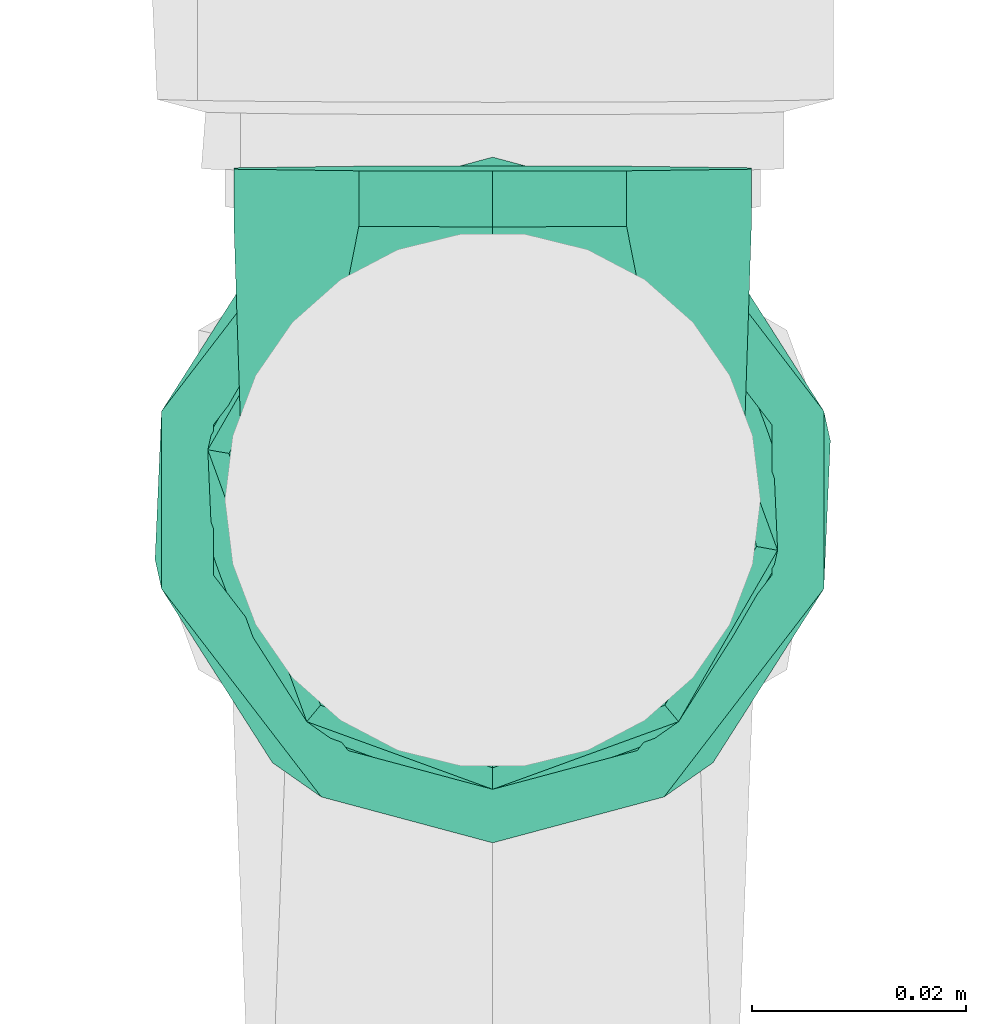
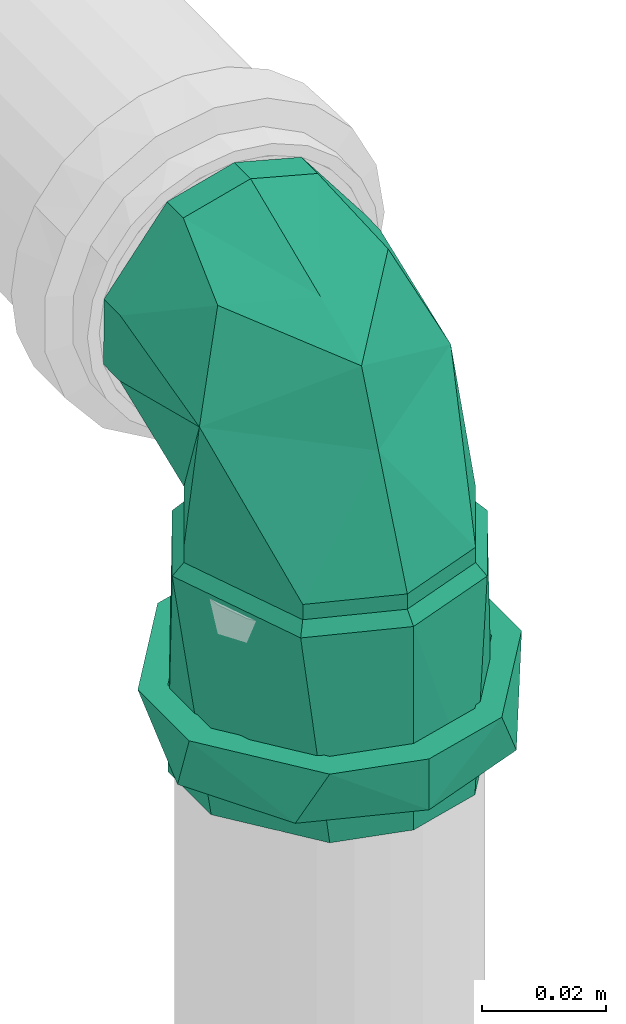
# One storey, part 40 of 589: 1 flow fitting.
"""IFC2X3 building model written with IfcOpenShell, lengths in millimetres."""

from ifc_helpers import new_model, entity, si_unit, converted_unit, derived_unit, direction, frame, origin, place, context, subcontext, project, spatial, faceted_brep, source, transform, mapped, material, type_object, type_shapes, element, save


model = new_model("IFC2X3")

# Units and contexts
model_context = context("Model", 3, precision=0.01, world=origin(), true_north=direction((6.123031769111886e-17, 1.0)))
body_context = subcontext(model_context, "Body", "Model", "MODEL_VIEW")
ifc_project = project(units=[si_unit("LENGTHUNIT", "METRE", prefix="MILLI"), si_unit("AREAUNIT", "SQUARE_METRE"), si_unit("VOLUMEUNIT", "CUBIC_METRE"), converted_unit("PLANEANGLEUNIT", "DEGREE", entity("IfcRatioMeasure", 0.017453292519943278), si_unit("PLANEANGLEUNIT", "RADIAN"), dimensions=[0, 0, 0, 0, 0, 0, 0]), si_unit("MASSUNIT", "GRAM", prefix="KILO"), derived_unit("MASSDENSITYUNIT", [(si_unit("MASSUNIT", "GRAM", prefix="KILO"), 1), (si_unit("LENGTHUNIT", "METRE"), -3)]), derived_unit("IONCONCENTRATIONUNIT", [(si_unit("MASSUNIT", "GRAM", prefix="KILO"), 1), (si_unit("LENGTHUNIT", "METRE"), -3)]), derived_unit("MOMENTOFINERTIAUNIT", [(si_unit("LENGTHUNIT", "METRE"), 4)]), si_unit("TIMEUNIT", "SECOND"), si_unit("FREQUENCYUNIT", "HERTZ"), si_unit("THERMODYNAMICTEMPERATUREUNIT", "DEGREE_CELSIUS"), derived_unit("THERMALTRANSMITTANCEUNIT", [(si_unit("MASSUNIT", "GRAM", prefix="KILO"), 1), (si_unit("THERMODYNAMICTEMPERATUREUNIT", "KELVIN"), -1), (si_unit("TIMEUNIT", "SECOND"), -3)]), derived_unit("THERMALCONDUCTANCEUNIT", [(si_unit("MASSUNIT", "GRAM", prefix="KILO"), 1), (si_unit("THERMODYNAMICTEMPERATUREUNIT", "KELVIN"), -1), (si_unit("TIMEUNIT", "SECOND"), -3), (si_unit("LENGTHUNIT", "METRE"), 1)]), derived_unit("VOLUMETRICFLOWRATEUNIT", [(si_unit("LENGTHUNIT", "METRE"), 3), (si_unit("TIMEUNIT", "SECOND"), -1)]), derived_unit("MASSFLOWRATEUNIT", [(si_unit("MASSUNIT", "GRAM", prefix="KILO"), 1), (si_unit("TIMEUNIT", "SECOND"), -1)]), derived_unit("ROTATIONALFREQUENCYUNIT", [(si_unit("TIMEUNIT", "SECOND"), -1)]), si_unit("ELECTRICCURRENTUNIT", "AMPERE"), si_unit("ELECTRICVOLTAGEUNIT", "VOLT"), si_unit("POWERUNIT", "WATT"), si_unit("FORCEUNIT", "NEWTON", prefix="KILO"), si_unit("ILLUMINANCEUNIT", "LUX"), si_unit("LUMINOUSFLUXUNIT", "LUMEN"), si_unit("LUMINOUSINTENSITYUNIT", "CANDELA"), derived_unit("USERDEFINED", [(si_unit("MASSUNIT", "GRAM", prefix="KILO"), -1), (si_unit("LENGTHUNIT", "METRE"), -2), (si_unit("TIMEUNIT", "SECOND"), 3), (si_unit("LUMINOUSFLUXUNIT", "LUMEN"), 1)]), derived_unit("USERDEFINED", [(si_unit("MASSUNIT", "GRAM", prefix="KILO"), 1), (si_unit("TIMEUNIT", "SECOND"), -3), (si_unit("LENGTHUNIT", "METRE"), 3), (si_unit("ELECTRICCURRENTUNIT", "AMPERE"), -2)]), derived_unit("SOUNDPOWERUNIT", [(si_unit("MASSUNIT", "GRAM", prefix="KILO"), 1), (si_unit("TIMEUNIT", "SECOND"), -3), (si_unit("LENGTHUNIT", "METRE"), 2)]), derived_unit("SOUNDPRESSUREUNIT", [(si_unit("MASSUNIT", "GRAM", prefix="KILO"), 1), (si_unit("LENGTHUNIT", "METRE"), -1), (si_unit("TIMEUNIT", "SECOND"), -2)]), derived_unit("LINEARVELOCITYUNIT", [(si_unit("LENGTHUNIT", "METRE"), 1), (si_unit("TIMEUNIT", "SECOND"), -1)]), si_unit("PRESSUREUNIT", "PASCAL"), derived_unit("USERDEFINED", [(si_unit("MASSUNIT", "GRAM", prefix="KILO"), 1), (si_unit("LENGTHUNIT", "METRE"), -2), (si_unit("TIMEUNIT", "SECOND"), -2)]), derived_unit("LINEARFORCEUNIT", [(si_unit("MASSUNIT", "GRAM", prefix="KILO"), 1), (si_unit("TIMEUNIT", "SECOND"), -2)]), derived_unit("PLANARFORCEUNIT", [(si_unit("MASSUNIT", "GRAM", prefix="KILO"), 1), (si_unit("LENGTHUNIT", "METRE"), -1), (si_unit("TIMEUNIT", "SECOND"), -2)]), derived_unit("SPECIFICHEATCAPACITYUNIT", [(si_unit("THERMODYNAMICTEMPERATUREUNIT", "KELVIN"), -1), (si_unit("LENGTHUNIT", "METRE"), 2), (si_unit("TIMEUNIT", "SECOND"), -2)]), derived_unit("HEATINGVALUEUNIT", [(si_unit("LENGTHUNIT", "METRE"), 2), (si_unit("TIMEUNIT", "SECOND"), -2)]), derived_unit("VAPORPERMEABILITYUNIT", [(si_unit("LENGTHUNIT", "METRE"), -1), (si_unit("TIMEUNIT", "SECOND"), 1)]), derived_unit("DYNAMICVISCOSITYUNIT", [(si_unit("MASSUNIT", "GRAM", prefix="KILO"), 1), (si_unit("TIMEUNIT", "SECOND"), -1), (si_unit("LENGTHUNIT", "METRE"), -1)]), derived_unit("THERMALEXPANSIONCOEFFICIENTUNIT", [(si_unit("THERMODYNAMICTEMPERATUREUNIT", "KELVIN"), -1)]), derived_unit("MODULUSOFELASTICITYUNIT", [(si_unit("MASSUNIT", "GRAM", prefix="KILO"), 1), (si_unit("LENGTHUNIT", "METRE"), -1), (si_unit("TIMEUNIT", "SECOND"), -2)]), derived_unit("ISOTHERMALMOISTURECAPACITYUNIT", [(si_unit("LENGTHUNIT", "METRE"), 3), (si_unit("MASSUNIT", "GRAM", prefix="KILO"), -1)]), derived_unit("MOISTUREDIFFUSIVITYUNIT", [(si_unit("TIMEUNIT", "SECOND"), -1), (si_unit("LENGTHUNIT", "METRE"), 2)])], contexts=[model_context])

# Site, building, storey
site_placement = place(None, origin())
site = spatial("IfcSite", under=ifc_project, at=site_placement, Name="Default", CompositionType="ELEMENT")
building_placement = place(site_placement, origin())
building = spatial("IfcBuilding", under=site, at=building_placement, CompositionType="ELEMENT")
storey_placement = place(building_placement, frame((0.0, 0.0, 100.0)))
storey = spatial("IfcBuildingStorey", under=building, at=storey_placement, Name="TÉRREO", CompositionType="ELEMENT", Elevation=100.0)

# Flow fitting
ifc_material = material(Name="PVC Série Normal")
pipe_fitting_type = type_object("IfcPipeFittingType", Name="PVC Esgoto_Joelho 45_90_Rodrigo MEP:a. Série Normal", PredefinedType="NOTDEFINED", material=ifc_material)
shared_shape = source(origin(), body_context, "Body", "Brep", [
    faceted_brep([(25.256150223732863, -25.490025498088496, 0.0), (21.906952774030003, -25.52351747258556, -12.500000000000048), (6.727552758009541, -25.675311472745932, -24.14814565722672), (-6.21275249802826, -25.804714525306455, -24.1481456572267), (-21.392152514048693, -25.956508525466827, -12.499999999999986), (-24.741349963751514, -25.990000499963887, 0.0), (-21.392152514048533, -25.95650852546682, 12.500000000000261), (-6.212752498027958, -25.804714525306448, 24.14814565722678), (6.7275527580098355, -25.675311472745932, 24.148145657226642), (21.906952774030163, -25.52351747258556, 12.499999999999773), (-6.160755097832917, -31.00445454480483, 24.14814565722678), (-21.340155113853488, -31.1562485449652, 12.500000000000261), (-24.689352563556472, -31.18974051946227, 0.0), (-21.34015511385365, -31.156248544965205, -12.499999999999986), (-6.160755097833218, -31.004454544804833, -24.1481456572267), (6.779550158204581, -30.87505149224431, -24.14814565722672), (21.958950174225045, -30.72325749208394, -12.500000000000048), (25.308147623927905, -30.689765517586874, 0.0), (21.958950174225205, -30.72325749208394, 12.499999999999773), (6.779550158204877, -30.87505149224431, 24.148145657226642)], [[[0, 1, 2, 3, 4, 5, 6, 7, 8, 9]], [[10, 11, 12, 13, 14, 15, 16, 17, 18, 19]], [[18, 17, 0, 9]], [[19, 18, 9, 8]], [[8, 7, 10, 19]], [[11, 10, 7, 6]], [[12, 11, 6, 5]], [[13, 12, 5, 4]], [[14, 13, 4, 3]], [[3, 2, 15, 14]], [[16, 15, 2, 1]], [[17, 16, 1, 0]]]),
    faceted_brep([(-70.94129996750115, -6.4704761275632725, -24.148145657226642), (-70.94129996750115, 6.47047612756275, -24.14814565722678), (-70.94129996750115, 6.988114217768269, -26.07999730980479), (-70.94129996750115, -6.988114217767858, -26.0799973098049), (-70.94129996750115, -21.6506350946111, -12.499999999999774), (-70.94129996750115, 23.382685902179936, -13.499999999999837), (-70.94129996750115, 21.650635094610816, -12.500000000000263), (-70.94129996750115, 25.0, 0.0), (-70.94129996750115, 27.0, 0.0), (-70.94129996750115, 21.650635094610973, 12.499999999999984), (-70.94129996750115, 23.382685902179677, 13.500000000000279), (-70.94129996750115, 6.470476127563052, 24.1481456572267), (-70.94129996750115, 6.98811421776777, 26.079997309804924), (-70.94129996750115, -6.470476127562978, 24.14814565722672), (-70.94129996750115, -6.988114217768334, 26.07999730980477), (-70.94129996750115, -21.650635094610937, 12.500000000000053), (-70.94129996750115, -23.38268590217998, 13.499999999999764), (-70.94129996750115, -27.0, 0.0), (-70.94129996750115, -25.0, 0.0), (-70.94129996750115, -23.382685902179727, -13.500000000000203), (-30.94129996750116, -25.0, 0.0), (-30.94129996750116, -21.650635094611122, -12.499999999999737), (-30.94129996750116, -6.4704761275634, -24.148145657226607), (-30.94129996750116, 6.470476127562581, -24.148145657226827), (-30.94129996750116, 21.650635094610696, -12.500000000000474), (-30.94129996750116, 25.0, 0.0), (-30.94129996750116, 21.65063509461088, 12.500000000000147), (-30.94129996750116, 6.470476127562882, 24.14814565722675), (-30.94129996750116, -6.470476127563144, 24.148145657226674), (-30.94129996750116, -21.650635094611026, 12.499999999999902), (-30.94129996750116, -27.0, 0.0), (-30.941299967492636, -20.682232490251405, 17.356418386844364), (-30.941299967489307, -7.995013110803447, 21.972787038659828), (-30.941299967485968, 4.692206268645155, 26.589155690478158), (-30.94129996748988, 20.686585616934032, 17.35122979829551), (-30.94129996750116, 27.0, 0.0), (-30.94129996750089, 20.686585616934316, -17.35122979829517), (-30.941299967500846, 8.000524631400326, -21.970780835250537), (-30.941299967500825, -4.6855363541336, -26.59033187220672), (-30.94129996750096, -20.682232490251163, -17.356418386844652), (-28.741299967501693, -4.344635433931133, -24.619588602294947), (-28.741299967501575, -19.15424594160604, -16.06595351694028), (-28.741299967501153, -25.0, 0.0), (-28.741299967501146, 25.0, 0.0), (-28.74129996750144, 19.15021526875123, -16.07075776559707), (-28.74129996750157, 7.402789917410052, -20.345173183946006), (-28.741299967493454, 19.150215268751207, 16.070757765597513), (-28.741299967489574, -7.407893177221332, 20.34331558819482), (-28.741299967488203, 4.338459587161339, 24.620677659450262), (-28.741299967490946, -19.154245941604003, 16.065953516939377), (-25.741299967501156, -25.0, 0.0), (-25.741299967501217, -19.151286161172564, 16.069481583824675), (-25.7412999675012, -7.405117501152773, 20.34485121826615), (-25.741299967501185, 4.3410511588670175, 24.620220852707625), (-25.741299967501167, 19.15106105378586, 16.069749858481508), (-25.741299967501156, 25.0, 0.0), (-25.741299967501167, 19.15106105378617, -16.069749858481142), (-25.741299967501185, 7.4048325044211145, -20.344954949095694), (-25.741299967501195, -4.341396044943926, -24.620160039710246), (-25.741299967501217, -19.15128616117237, -16.069481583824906), (21.90695277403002, -25.523517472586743, -12.500000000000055), (25.256150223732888, -25.490025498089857, 0.0), (21.906952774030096, -25.52351747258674, 12.499999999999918), (6.7275527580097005, -25.67531147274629, 24.148145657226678), (-6.2127524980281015, -25.80471452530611, 24.14814565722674), (-21.3921525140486, -25.956508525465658, 12.500000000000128), (-24.74134996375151, -25.990000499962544, 0.0), (-21.39215251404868, -25.95650852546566, -12.499999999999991), (-6.212752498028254, -25.80471452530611, -24.1481456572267), (6.727552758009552, -25.67531147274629, -24.14814565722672), (-0.875171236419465, -1.4332887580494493, 23.341145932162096), (-3.2027279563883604, 15.730161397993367, 0.0), (16.135012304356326, -8.632944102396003, 15.848254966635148), (10.140389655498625, 10.242300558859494, 0.0), (-25.03773742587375, -25.289366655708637, 0.0), (15.761400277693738, -3.0452732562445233, 0.0), (16.13501175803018, -8.632944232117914, -15.848255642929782), (-0.8358007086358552, -1.5246709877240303, -23.354961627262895)], [[[0, 1, 2]], [[2, 3, 0]], [[4, 0, 3]], [[5, 2, 1]], [[1, 6, 5]], [[6, 7, 5]], [[8, 5, 7]], [[8, 7, 9]], [[10, 8, 9]], [[9, 11, 10]], [[11, 12, 10]], [[13, 12, 11]], [[12, 13, 14]], [[13, 15, 14]], [[16, 14, 15]], [[16, 15, 17]], [[17, 15, 18]], [[18, 4, 19]], [[17, 18, 19]], [[3, 19, 4]], [[4, 18, 20, 21]], [[0, 4, 21, 22]], [[22, 23, 1, 0]], [[6, 1, 23, 24]], [[7, 6, 24, 25]], [[9, 7, 25, 26]], [[11, 9, 26, 27]], [[27, 28, 13, 11]], [[15, 13, 28, 29]], [[18, 15, 29, 20]], [[30, 16, 17]], [[30, 31, 16]], [[14, 16, 31]], [[14, 31, 32, 33]], [[10, 12, 34]], [[8, 10, 35]], [[33, 34, 12]], [[35, 10, 34]], [[14, 33, 12]], [[35, 5, 8]], [[35, 36, 5]], [[2, 5, 36]], [[2, 36, 37, 38]], [[19, 3, 39]], [[17, 19, 30]], [[38, 39, 3]], [[30, 19, 39]], [[2, 38, 3]], [[28, 27, 26, 25, 24, 23, 22, 21, 20, 29]], [[39, 40, 41]], [[30, 41, 42]], [[39, 41, 30]], [[39, 38, 40]], [[36, 43, 44]], [[37, 36, 44]], [[40, 38, 45]], [[43, 36, 35]], [[37, 45, 38]], [[37, 44, 45]], [[34, 46, 43]], [[43, 35, 34]], [[46, 34, 33]], [[47, 32, 31]], [[33, 48, 46]], [[30, 42, 49]], [[49, 47, 31]], [[30, 49, 31]], [[33, 32, 48]], [[47, 48, 32]], [[50, 49, 42]], [[50, 51, 49]], [[48, 52, 53]], [[47, 51, 52]], [[47, 52, 48]], [[47, 49, 51]], [[54, 43, 46]], [[53, 54, 46]], [[55, 43, 54]], [[48, 53, 46]], [[56, 44, 43]], [[55, 56, 43]], [[56, 57, 44]], [[57, 45, 44]], [[57, 58, 45]], [[40, 45, 58]], [[59, 41, 40]], [[59, 50, 41]], [[42, 41, 50]], [[58, 59, 40]], [[60, 61, 62, 63, 64, 65, 66, 67, 68, 69]], [[70, 53, 52, 51]], [[70, 71, 54]], [[71, 55, 54]], [[70, 72, 73]], [[74, 65, 50]], [[50, 65, 51]], [[53, 70, 54]], [[71, 70, 73]], [[62, 61, 75]], [[72, 70, 63]], [[62, 75, 72]], [[66, 65, 74]], [[63, 62, 72]], [[64, 51, 65]], [[51, 64, 70]], [[75, 73, 72]], [[70, 64, 63]], [[75, 76, 73]], [[56, 55, 71]], [[68, 59, 77]], [[58, 77, 59]], [[56, 71, 77]], [[77, 58, 57, 56]], [[76, 69, 77]], [[67, 50, 59]], [[67, 66, 74]], [[73, 77, 71]], [[59, 68, 67]], [[76, 75, 60]], [[75, 61, 60]], [[76, 77, 73]], [[60, 69, 76]], [[77, 69, 68]], [[74, 50, 67]]]),
    faceted_brep([(-53.94129996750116, 8.282209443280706, -30.909626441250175), (-53.94129996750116, 6.988114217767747, -26.079997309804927), (-53.94129996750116, -6.9881142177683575, -26.07999730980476), (-53.94129996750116, 27.712812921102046, -16.0), (-53.94129996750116, -8.28220944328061, -30.9096264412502), (-53.94129996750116, 23.38268590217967, -13.500000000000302), (-53.94129996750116, 27.0, 0.0), (-53.94129996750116, 32.0, 0.0), (-53.94129996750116, 23.382685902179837, 13.500000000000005), (-53.94129996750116, 27.712812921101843, 16.0), (-53.94129996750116, 6.988114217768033, 26.07999730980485), (-53.94129996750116, 8.28220944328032, 30.909626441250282), (-53.94129996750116, -6.988114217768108, 26.07999730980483), (-53.94129996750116, -8.282209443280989, 30.909626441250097), (-53.94129996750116, -23.382685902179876, 13.499999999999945), (-53.94129996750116, -27.712812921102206, 16.0), (-53.94129996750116, -32.0, 0.0), (-53.94129996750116, -27.0, 0.0), (-53.94129996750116, -27.712812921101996, -16.0), (-53.94129996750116, -23.38268590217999, -13.499999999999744), (-63.94129996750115, -23.38268590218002, -13.499999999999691), (-63.94129996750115, -25.19134295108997, -6.750000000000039), (-65.24129996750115, -27.0, 0.0), (-63.94129996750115, -27.0, 0.0), (-63.94129996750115, -6.988114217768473, -26.07999730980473), (-63.94129996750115, -11.086757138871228, -22.934997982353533), (-63.94129996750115, -15.185400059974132, -19.789998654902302), (-63.94129996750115, -19.284042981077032, -16.644999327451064), (-63.94129996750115, 6.988114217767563, -26.079997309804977), (-63.94129996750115, 0.0, -26.079997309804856), (-63.94129996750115, 23.382685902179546, -13.50000000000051), (-63.94129996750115, 19.284042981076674, -16.644999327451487), (-63.94129996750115, 15.185400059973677, -19.789998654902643), (-63.94129996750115, 11.086757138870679, -22.9349979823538), (-63.94129996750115, 27.0, 0.0), (-65.24129996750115, 27.0, 0.0), (-63.94129996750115, 25.191342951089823, -6.749999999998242), (-63.94129996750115, 23.382685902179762, 13.500000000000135), (-63.94129996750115, 25.191342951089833, 6.7500000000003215), (-63.94129996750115, 6.988114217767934, 26.079997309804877), (-63.94129996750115, 11.086757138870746, 22.934997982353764), (-63.94129996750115, 15.185400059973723, 19.7899986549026), (-63.94129996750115, 19.284042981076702, 16.64499932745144), (-63.94129996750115, -6.988114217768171, 26.079997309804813), (-63.94129996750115, 0.0, 26.079997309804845), (-63.94129996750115, -23.382685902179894, 13.499999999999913), (-63.94129996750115, -19.284042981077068, 16.644999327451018), (-63.94129996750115, -15.185400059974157, 19.789998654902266), (-63.94129996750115, -11.086757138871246, 22.93499798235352), (-63.94129996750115, -25.19134295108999, 6.749999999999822), (-63.94129996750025, -24.512275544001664, 20.570569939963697), (-63.94129996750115, -32.0, 0.0), (-63.94129996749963, -5.553228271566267, 31.51446740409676), (-63.94129996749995, 24.51743480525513, 20.56442050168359), (-63.94129996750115, 32.0, 0.0), (-63.9412999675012, 24.51743480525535, -20.564420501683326), (-63.94129996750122, 5.561133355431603, -31.513073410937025), (-63.94129996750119, -24.512275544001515, -20.570569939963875), (-65.24129996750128, 20.686585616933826, -17.351229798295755), (-65.24129996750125, -20.6822324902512, -17.356418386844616), (-65.24129996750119, -23.841116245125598, -8.678209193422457), (-65.24129996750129, 14.343555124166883, -19.661005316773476), (-65.24129996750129, 8.00052463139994, -21.970780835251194), (-65.2412999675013, 1.6574941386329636, -24.280556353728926), (-65.24129996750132, -4.685536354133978, -26.590331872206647), (-65.24129996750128, -12.683884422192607, -21.973375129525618), (-65.2412999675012, 23.84329280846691, -8.675614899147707), (-65.24129996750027, -20.68223249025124, 17.35641838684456), (-65.24129996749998, 20.68658561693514, 17.351229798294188), (-65.24129996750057, 23.843292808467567, 8.67561489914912), (-65.2412999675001, -14.338622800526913, 19.664602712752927), (-65.24129996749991, -7.995013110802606, 21.97278703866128), (-65.24129996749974, -1.6514034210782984, 24.28097136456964), (-65.24129996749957, 4.692206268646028, 26.58915569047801), (-65.24129996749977, 12.689395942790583, 21.9701927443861), (-65.24129996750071, -23.84111624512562, 8.678209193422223)], [[[0, 1, 2]], [[1, 0, 3]], [[2, 4, 0]], [[3, 5, 1]], [[3, 6, 5]], [[6, 3, 7]], [[8, 6, 7]], [[8, 7, 9]], [[9, 10, 8]], [[9, 11, 10]], [[10, 11, 12]], [[13, 12, 11]], [[13, 14, 12]], [[14, 13, 15]], [[16, 14, 15]], [[17, 14, 16]], [[18, 17, 16]], [[18, 19, 17]], [[19, 18, 4]], [[4, 2, 19]], [[20, 21, 22, 23, 17, 19]], [[24, 25, 26, 27, 20, 19, 2]], [[2, 1, 28, 29, 24]], [[30, 31, 32, 33, 28, 1, 5]], [[34, 35, 36, 30, 5, 6]], [[37, 38, 35, 34, 6, 8]], [[39, 40, 41, 42, 37, 8, 10]], [[10, 12, 43, 44, 39]], [[45, 46, 47, 48, 43, 12, 14]], [[23, 22, 49, 45, 14, 17]], [[15, 50, 51]], [[16, 15, 51]], [[13, 50, 15]], [[13, 52, 50]], [[53, 52, 11]], [[54, 53, 9]], [[11, 9, 53]], [[7, 54, 9]], [[13, 11, 52]], [[3, 55, 54]], [[7, 3, 54]], [[0, 55, 3]], [[0, 56, 55]], [[57, 56, 4]], [[51, 57, 18]], [[4, 18, 57]], [[16, 51, 18]], [[0, 4, 56]], [[58, 32, 31, 30]], [[59, 60, 20]], [[33, 61, 62]], [[32, 61, 33]], [[29, 63, 64]], [[24, 64, 65]], [[26, 59, 20, 27]], [[28, 63, 29]], [[64, 24, 29]], [[62, 28, 33]], [[24, 65, 26, 25]], [[22, 21, 60]], [[35, 66, 36]], [[32, 58, 61]], [[62, 63, 28]], [[58, 30, 66]], [[59, 26, 65]], [[66, 30, 36]], [[21, 20, 60]], [[67, 47, 46, 45]], [[68, 69, 37]], [[48, 70, 71]], [[47, 70, 48]], [[44, 72, 73]], [[39, 73, 74]], [[41, 68, 37, 42]], [[43, 72, 44]], [[73, 39, 44]], [[71, 43, 48]], [[39, 74, 41, 40]], [[35, 38, 69]], [[22, 75, 49]], [[47, 67, 70]], [[71, 72, 43]], [[67, 45, 75]], [[68, 41, 74]], [[75, 45, 49]], [[38, 37, 69]], [[54, 55, 58, 66, 35]], [[58, 55, 56]], [[56, 64, 63, 62, 61, 58]], [[57, 59, 65, 64]], [[51, 22, 60, 59, 57]], [[56, 57, 64]], [[51, 50, 67, 75, 22]], [[67, 50, 52]], [[52, 73, 72, 71, 70, 67]], [[53, 68, 74, 73]], [[54, 35, 69, 68, 53]], [[52, 53, 73]]]),
])
type_shapes(pipe_fitting_type, [shared_shape])
flow_fitting_placement = place(storey_placement, frame((1855.1564123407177, -10057.272915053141, 2976.6932858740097), z_axis=(1.0, 0.0, 0.0), x_axis=(0.0, 0.0, 1.0)))
element("IfcFlowFitting", 1, at=flow_fitting_placement, inside=storey, type_object=pipe_fitting_type, material=ifc_material, Name="PVC Esgoto_Joelho 45_90_Rodrigo MEP:a. Série Normal", ObjectType="PVC Esgoto_Joelho 45_90_Rodrigo MEP:a. Série Normal", context=body_context, shape_type="MappedRepresentation", body=[
    mapped(shared_shape, transform((0.0, 0.0, 0.0), scale=1.0)),
])

save(model, "model.ifc")
